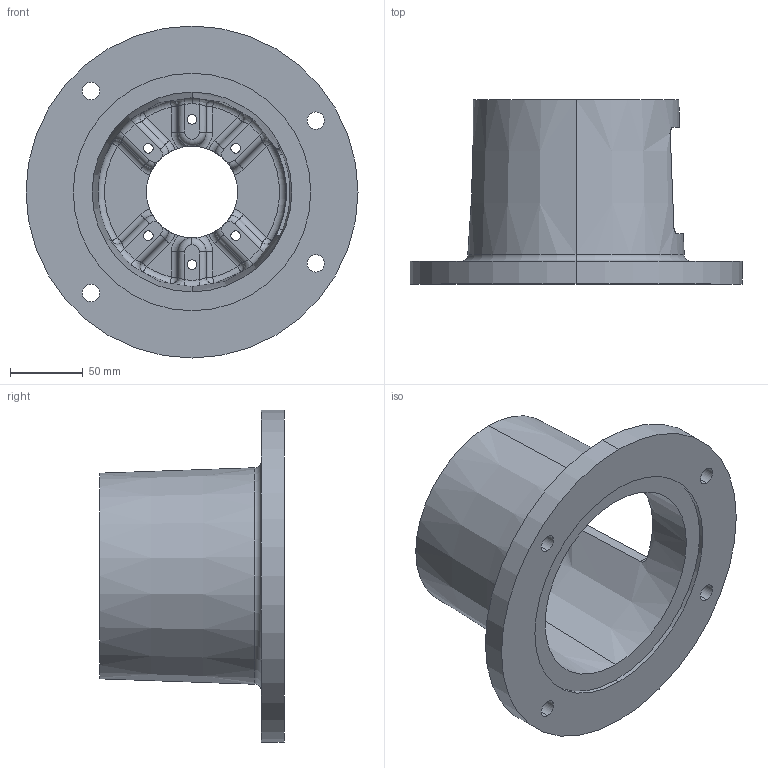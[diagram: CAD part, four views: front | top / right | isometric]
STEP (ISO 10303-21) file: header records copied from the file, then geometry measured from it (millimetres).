
FILE_DESCRIPTION (( 'STEP AP203' ), '1' );
FILE_NAME ('E6445063m.STEP', '2014-11-03T17:47:04', ( '' ), ( '' ), 'SwSTEP 2.0', 'SolidWorks 2014', '' );
FILE_SCHEMA (( 'CONFIG_CONTROL_DESIGN' ));
Length unit declared in the file: inch
Products named in the file (1): E6445063m
Bounding box: 228.6 x 127 x 228.6 mm (x, y, z)
Volume: 779560.8 mm3; surface area: 183941.6 mm2
Topology: 1 solids, 1 shells, 176 faces, 438 edges, 254 vertices
Faces by surface type: cylinder 65, torus 39, plane 32, bspline 24, sphere 12, cone 4
Entity records: 7126 total; most frequent: CARTESIAN_POINT 2969, DIRECTION 887, ORIENTED_EDGE 852, EDGE_CURVE 426, AXIS2_PLACEMENT_3D 390, VERTEX_POINT 254, CIRCLE 237, EDGE_LOOP 202
